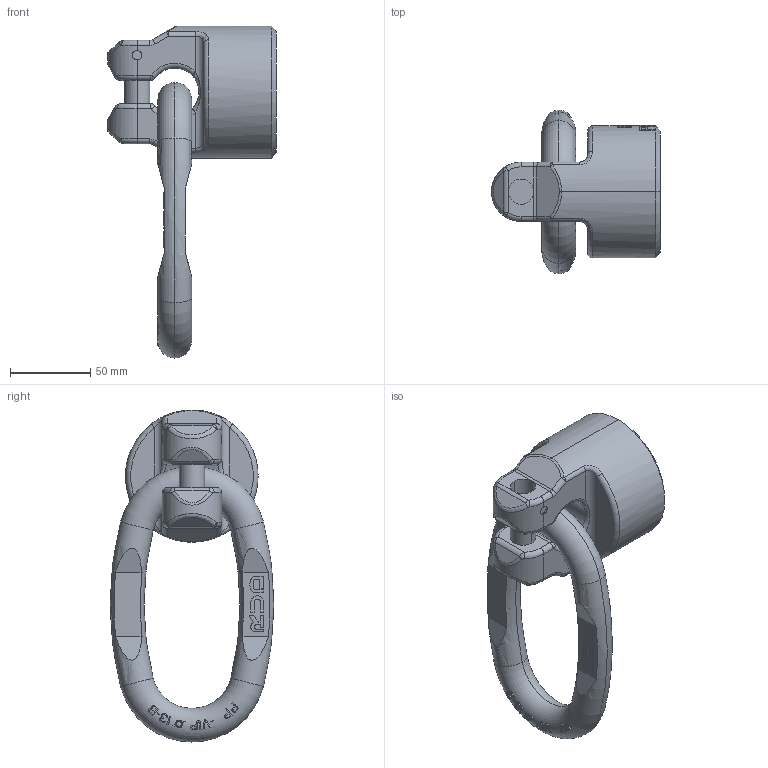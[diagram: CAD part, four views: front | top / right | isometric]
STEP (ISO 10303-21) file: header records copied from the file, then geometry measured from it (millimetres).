
FILE_DESCRIPTION((''),'2;1');
FILE_NAME('001-M31395-P-50_ASM','2018-04-26T',('Anja.Joas'),(''),'PRO/ENGINEER BY PARAMETRIC TECHNOLOGY CORPORATION, 2011490','PRO/ENGINEER BY PARAMETRIC TECHNOLOGY CORPORATION, 2011490','');
FILE_SCHEMA(('CONFIG_CONTROL_DESIGN'));
Length unit declared in the file: millimetre
Products named in the file (3): 001-M31395-P-20_AF0; 001-M31290-004; 001-M31395-P-50_ASM
Assembly tree (2 placements, depth 2):
  001-M31395-P-50_ASM
    001-M31395-P-20_AF0
    001-M31290-004
Bounding box: 105.49 x 102 x 207.25 mm (x, y, z)
Volume: 470342.6 mm3; surface area: 60586.9 mm2
Topology: 2 solids, 2 shells, 593 faces, 1579 edges, 1026 vertices
Faces by surface type: plane 464, cylinder 64, torus 32, bspline 26, sphere 4, cone 2, extrusion 1
Entity records: 20704 total; most frequent: CARTESIAN_POINT 6696, ORIENTED_EDGE 3158, DIRECTION 2492, EDGE_CURVE 1579, VERTEX_POINT 1026, VECTOR 842, LINE 841, AXIS2_PLACEMENT_3D 825
